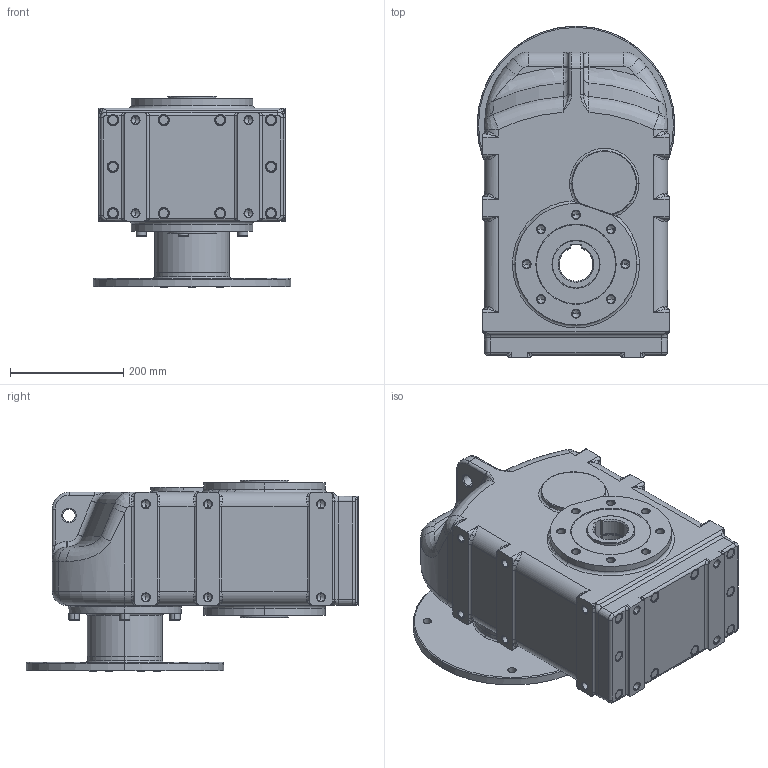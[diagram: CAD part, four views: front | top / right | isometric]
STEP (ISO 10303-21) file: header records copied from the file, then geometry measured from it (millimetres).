
FILE_DESCRIPTION (( 'STEP AP214' ), '1' );
FILE_NAME ('tnc52-f300-ap160.STEP', '2009-09-18T08:52:50', ( '' ), ( '' ), 'SwSTEP 2.0', 'SolidWorks 2003240', '' );
FILE_SCHEMA (( 'AUTOMOTIVE_DESIGN' ));
Length unit declared in the file: millimetre
Products named in the file (4): Skøíò TNC5_Skøíò TNC52 AP160; Pøíruba MRT150 kulatá _250-300-350; N021143_Šroub s vnitøním šestihranem DIN 912 - M8 x 25; tnc52-f300-ap160
Assembly tree (8 placements, depth 2):
  tnc52-f300-ap160
    N021143_Šroub s vnitøním šestihranem DIN 912 - M8 x 25  x6
    Skøíò TNC5_Skøíò TNC52 AP160
    Pøíruba MRT150 kulatá _250-300-350
Bounding box: 350 x 587.5 x 338.5 mm (x, y, z)
Volume: 34751239.8 mm3; surface area: 1066337.3 mm2
Topology: 8 solids, 8 shells, 988 faces, 2276 edges, 1283 vertices
Faces by surface type: cylinder 312, cone 256, plane 187, torus 152, bspline 81
Entity records: 113658 total; most frequent: CARTESIAN_POINT 93380, DIRECTION 4345, ORIENTED_EDGE 3852, EDGE_CURVE 1926, AXIS2_PLACEMENT_3D 1812, VERTEX_POINT 1153, CIRCLE 1024, EDGE_LOOP 963
